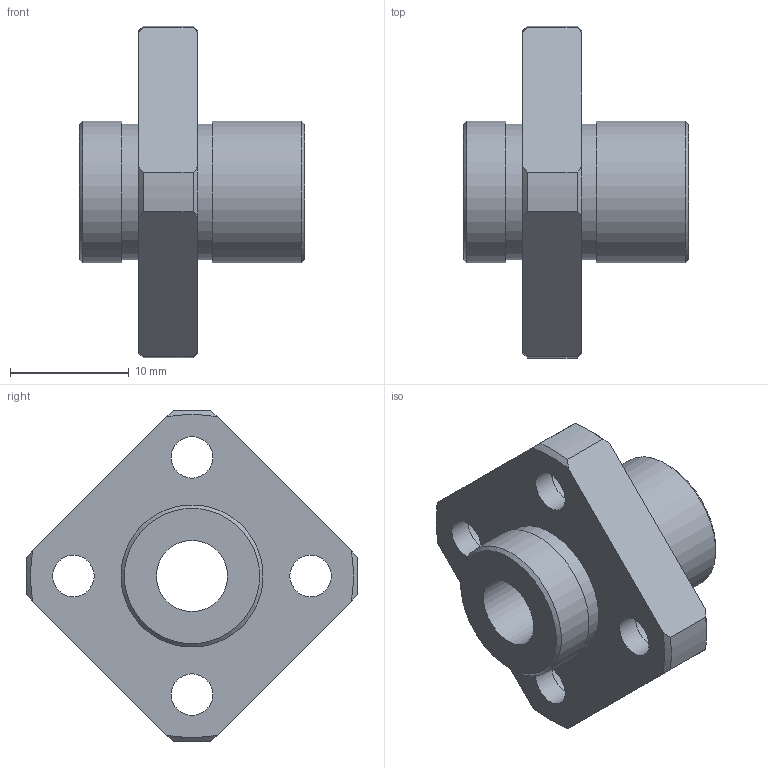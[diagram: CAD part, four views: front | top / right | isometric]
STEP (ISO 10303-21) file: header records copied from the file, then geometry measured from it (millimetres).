
FILE_DESCRIPTION(('STEP AP203'),'1');
FILE_NAME('//192.168.1.1/share/s-4 技術開発/s-4-4_CAD/s-4-4-3_見直し済み/002 修正済み/NFIS-V/NFIS-V_TOP/NFIS-6VUU.step','2022-03-08T02:24:22',(' '),(' '),'Spatial InterOp 3D',' ',' ');
FILE_SCHEMA(('CONFIG_CONTROL_DESIGN'));
Length unit declared in the file: millimetre
Products named in the file (1): 1
Bounding box: 19 x 27.98 x 27.98 mm (x, y, z)
Volume: 2962.4 mm3; surface area: 2441.9 mm2
Topology: 1 solids, 1 shells, 41 faces, 101 edges, 70 vertices
Faces by surface type: cylinder 17, plane 14, cone 10
Full cylindrical faces by diameter (mm): 3.5 x4, 6 x5, 11.5 x2, 12 x2
Entity records: 1158 total; most frequent: CARTESIAN_POINT 226, DIRECTION 188, ORIENTED_EDGE 152, AXIS2_PLACEMENT_3D 86, EDGE_CURVE 76, EDGE_LOOP 74, VERTEX_POINT 60, FACE_OUTER_BOUND 54
